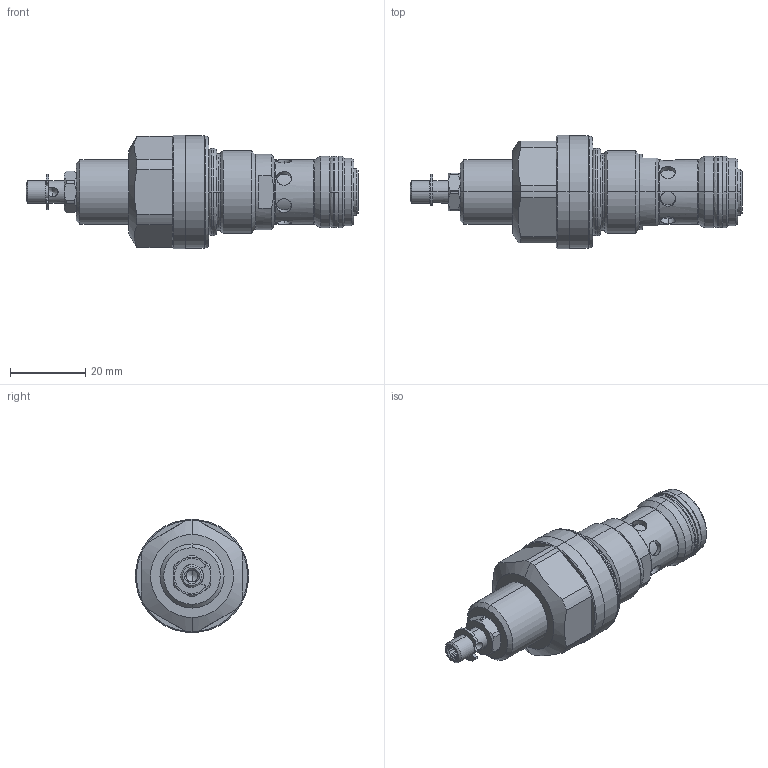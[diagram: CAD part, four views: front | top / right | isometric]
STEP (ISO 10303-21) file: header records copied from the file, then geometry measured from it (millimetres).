
FILE_DESCRIPTION (( 'STEP AP214' ), '1' );
FILE_NAME ('QZSPM22.STEP', '2017-03-24T13:40:29', ( '' ), ( '' ), 'SwSTEP 2.0', 'SolidWorks 2016', '' );
FILE_SCHEMA (( 'AUTOMOTIVE_DESIGN' ));
Length unit declared in the file: millimetre
Products named in the file (1): QZSPM22
Bounding box: 88 x 30 x 30 mm (x, y, z)
Volume: 28316.3 mm3; surface area: 9479.1 mm2
Topology: 5 solids, 8 shells, 295 faces, 686 edges, 422 vertices
Faces by surface type: cylinder 112, plane 78, cone 57, torus 32, bspline 16
Entity records: 12685 total; most frequent: CARTESIAN_POINT 2794, DIRECTION 1492, ORIENTED_EDGE 1364, EDGE_CURVE 682, AXIS2_PLACEMENT_3D 632, VERTEX_POINT 422, CIRCLE 352, EDGE_LOOP 322
